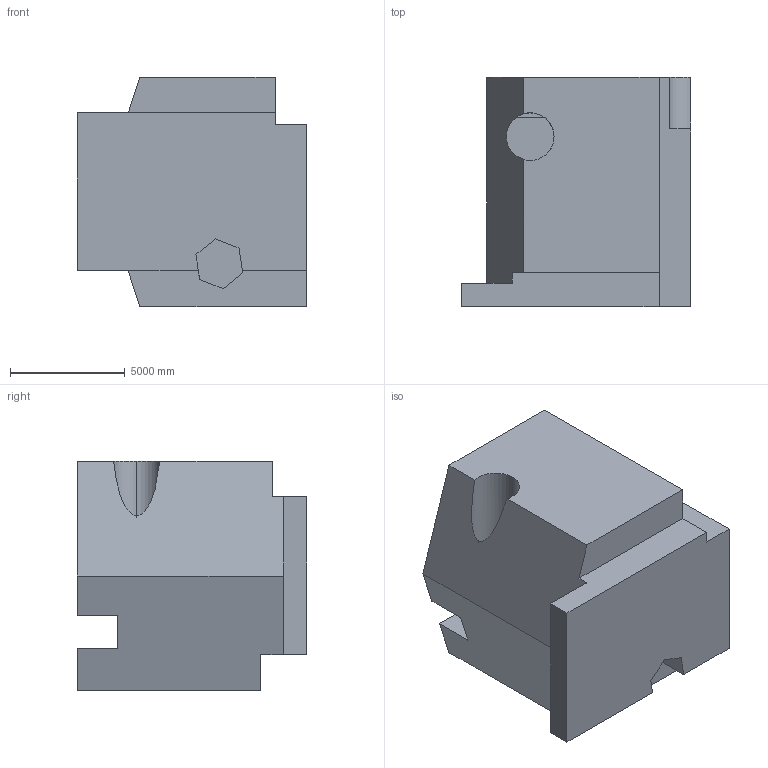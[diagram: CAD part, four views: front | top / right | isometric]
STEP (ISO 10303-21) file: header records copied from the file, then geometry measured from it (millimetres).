
FILE_DESCRIPTION (( 'STEP AP203' ), '1' );
FILE_NAME ('1718.STEP', '2022-08-19T12:02:26', ( 'user' ), ( '' ), 'SwSTEP 2.0', 'SolidWorks 2021', '' );
FILE_SCHEMA (( 'CONFIG_CONTROL_DESIGN' ));
Length unit declared in the file: centimetre
Products named in the file (1): 1718
Bounding box: 10000 x 10000 x 10000 mm (x, y, z)
Volume: 697773287528.9 mm3; surface area: 597015158.7 mm2
Topology: 1 solids, 1 shells, 34 faces, 102 edges, 68 vertices
Faces by surface type: plane 30, cylinder 4
Entity records: 1217 total; most frequent: CARTESIAN_POINT 211, ORIENTED_EDGE 204, DIRECTION 180, EDGE_CURVE 102, LINE 90, VECTOR 90, VERTEX_POINT 68, AXIS2_PLACEMENT_3D 45
